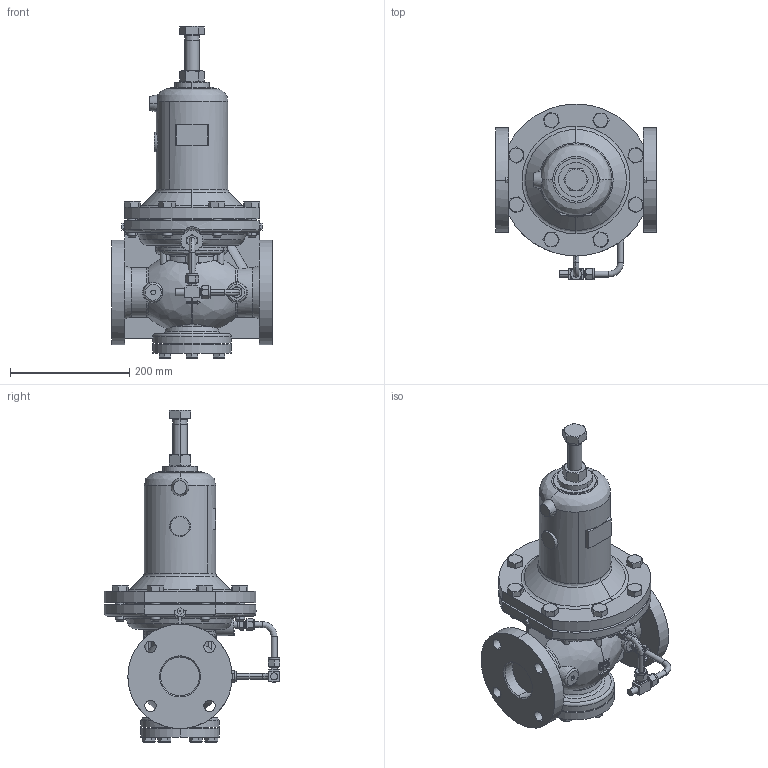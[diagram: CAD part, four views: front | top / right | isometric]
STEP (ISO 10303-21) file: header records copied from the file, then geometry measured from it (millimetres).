
FILE_DESCRIPTION( (''), '2;1');
FILE_NAME ('PC1027.11244.GD-200 65A_30075.stp','2025-07-25T12:16:48',(''),(''),'spGate 19.8.4 (****-****-****-****)','','');
FILE_SCHEMA (('AUTOMOTIVE_DESIGN'));
Length unit declared in the file: millimetre
Products named in the file (13): Assembly; PC1027-prt6; PC1027-prt7; PC1027-prt8; GD-200(65A)本体Ｐ; GD200(6580)保護筒; GD-200 65A_M2; GD-200 65A_M3; B-600-1-4RT; 検出管A65_M5; SS-10M0-3; 検出管B65_M5; GD-200 65A_M4
Assembly tree (20 placements, depth 2):
  Assembly
    PC1027-prt6
    PC1027-prt7
    PC1027-prt8
    GD-200(65A)本体Ｐ
    GD200(6580)保護筒
    GD-200 65A_M2
    GD-200 65A_M3
    B-600-1-4RT  x2
    検出管A65_M5
    SS-10M0-3
    検出管B65_M5
    GD-200 65A_M4  x8
Bounding box: 270 x 294.26 x 556.8 mm (x, y, z)
Volume: 8957595 mm3; surface area: 648472.6 mm2
Topology: 17 solids, 17 shells, 875 faces, 2081 edges, 1306 vertices
Faces by surface type: plane 329, bspline 311, cylinder 235
Entity records: 39397 total; most frequent: CARTESIAN_POINT 12710, ORIENTED_EDGE 3196, DIRECTION 2442, COLOUR_RGB 2257, PRESENTATION_STYLE_ASSIGNMENT 2257, STYLED_ITEM 2257, DRAUGHTING_PRE_DEFINED_CURVE_FONT 1601, CURVE_STYLE 1601
